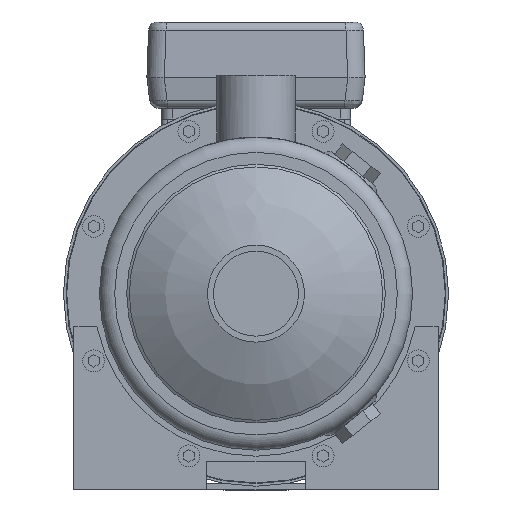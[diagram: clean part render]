
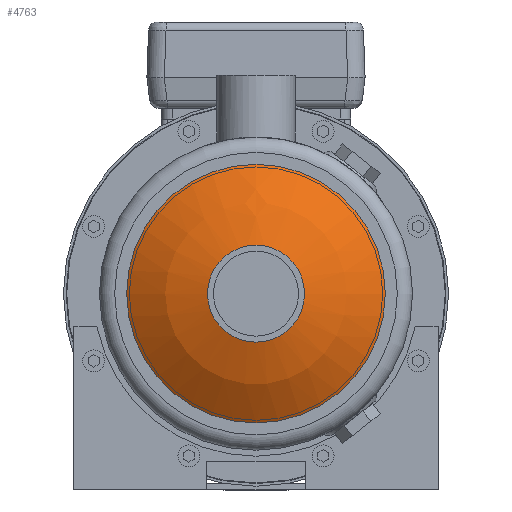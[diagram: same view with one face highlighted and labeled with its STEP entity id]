
A CAD part, left-side view. The second image highlights one B-rep face of the part: STEP entity #4763.
In plain terms, the highlighted spherical face has radius 100 mm.
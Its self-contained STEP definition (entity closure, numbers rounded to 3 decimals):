
#83=SPHERICAL_SURFACE('',#6416,100.);
#1088=ORIENTED_EDGE('',*,*,#2403,.T.);
#1089=ORIENTED_EDGE('',*,*,#2402,.F.);
#2402=EDGE_CURVE('',#3064,#3064,#3517,.T.);
#2403=EDGE_CURVE('',#3065,#3065,#3518,.T.);
#3064=VERTEX_POINT('',#8574);
#3065=VERTEX_POINT('',#8577);
#3517=CIRCLE('',#6415,22.25);
#3518=CIRCLE('',#6417,59.25);
#3735=EDGE_LOOP('',(#1088));
#3736=EDGE_LOOP('',(#1089));
#4167=FACE_BOUND('',#3735,.T.);
#4168=FACE_BOUND('',#3736,.T.);
#4763=ADVANCED_FACE('',(#4167,#4168),#83,.T.);
#6415=AXIS2_PLACEMENT_3D('',#8573,#7008,#7009);
#6416=AXIS2_PLACEMENT_3D('',#8575,#7010,#7011);
#6417=AXIS2_PLACEMENT_3D('',#8576,#7012,#7013);
#7008=DIRECTION('',(-1.,0.,0.));
#7009=DIRECTION('',(0.,0.,1.));
#7010=DIRECTION('',(-1.,0.,0.));
#7011=DIRECTION('',(0.,0.,1.));
#7012=DIRECTION('',(-1.,0.,0.));
#7013=DIRECTION('',(0.,0.,1.));
#8573=CARTESIAN_POINT('',(-91.293,0.,0.));
#8574=CARTESIAN_POINT('',(-91.293,0.,22.25));
#8575=CARTESIAN_POINT('',(6.2,0.,0.));
#8576=CARTESIAN_POINT('',(-74.357,0.,0.));
#8577=CARTESIAN_POINT('',(-74.357,0.,59.25));
